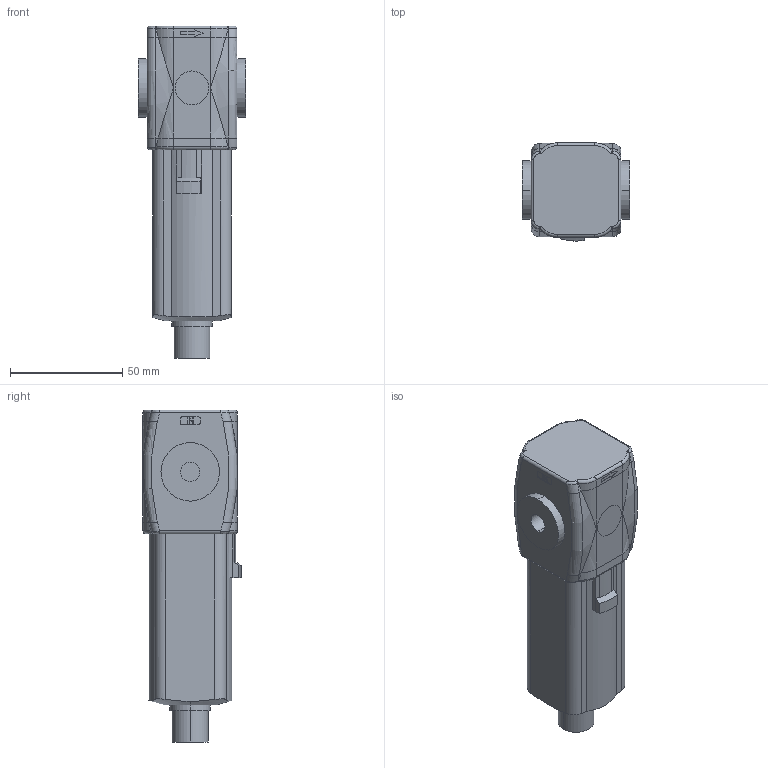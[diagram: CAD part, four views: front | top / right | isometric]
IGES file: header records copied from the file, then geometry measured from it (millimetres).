
Global section: file name: No Iges File Name specified; native system: Autodesk Inventor 2010; preprocessor: AutoDesk Inventor Iges Exporter R2010; author: valotma1; date: 20100823.141759; units: millimetre
Bounding box: 48 x 43.6 x 147.6 mm (x, y, z)
Volume: 183376.3 mm3; surface area: 23795.9 mm2
Topology: 1 solids, 1 shells, 218 faces, 534 edges, 338 vertices
Faces by surface type: plane 81, bspline 59, cylinder 47, torus 20, revolution 9, cone 2
